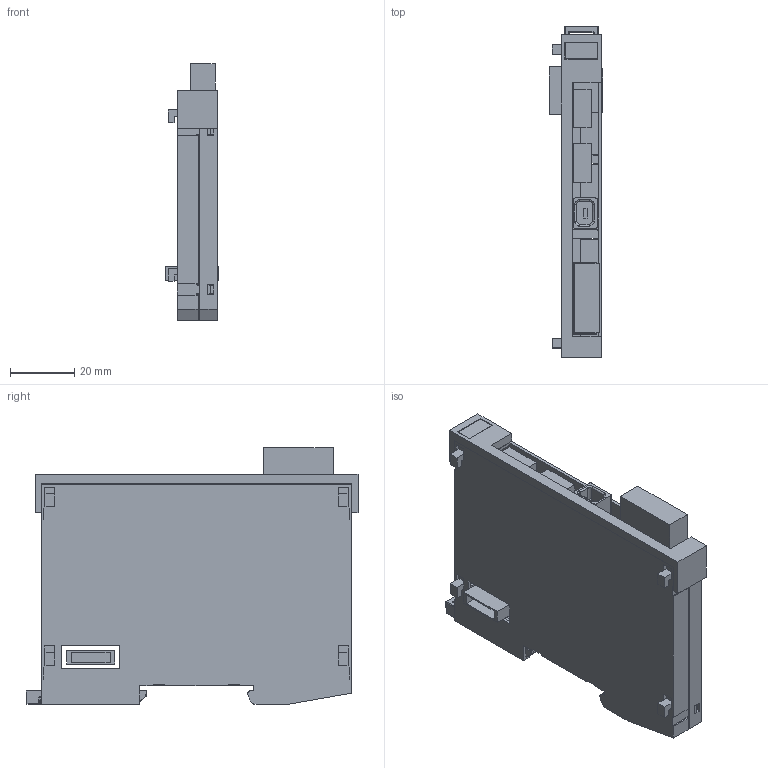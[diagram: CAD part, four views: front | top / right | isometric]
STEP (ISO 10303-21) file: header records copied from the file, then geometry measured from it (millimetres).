
FILE_DESCRIPTION (( 'STEP AP214' ), '1' );
FILE_NAME ('BC031 support.STEP', '2018-06-27T05:54:44', ( 'SIGMATEK GmbH & Co KG' ), ( 'SIGMATEK GmbH & Co KG' ), 'SwSTEP 2.0', 'SolidWorks 2017', '' );
FILE_SCHEMA (( 'AUTOMOTIVE_DESIGN' ));
Length unit declared in the file: millimetre
Products named in the file (13): S-Dias Schale rechts_f Suport; S-Dias Schale links_f Suport; 4110251342_MF 10-5 MC CABUR_1854510000; BC031 support; Dummy_S4B-PH-SH-4-TB; Dummy_4080225387 c-1981080-1-g-3d; Dummy_4110262186 6pol Stecker 1.5-6-st-3.5_1707307; Dummy_4110262114_6pol_1937538; LP_BC031; Dummy_4080225346 Erni Stift; Dummy_4080225345 Erni Buchse; S-Dias Rasthaken 20130313; Schieber_f Suport
Assembly tree (13 placements, depth 3):
  BC031 support
    4110251342_MF 10-5 MC CABUR_1854510000
    S-Dias Schale links_f Suport
    S-Dias Schale rechts_f Suport
    Schieber_f Suport
    S-Dias Rasthaken 20130313
    LP_BC031
      Dummy_4080225345 Erni Buchse
      Dummy_4080225346 Erni Stift
    Dummy_4110262114_6pol_1937538
    Dummy_4110262186 6pol Stecker 1.5-6-st-3.5_1707307
    Dummy_4080225387 c-1981080-1-g-3d
    Dummy_S4B-PH-SH-4-TB  x2
Bounding box: 16.8 x 103.61 x 80.15 mm (x, y, z)
Volume: 26561.9 mm3; surface area: 42469.5 mm2
Topology: 12 solids, 12 shells, 805 faces, 2333 edges, 1542 vertices
Faces by surface type: plane 552, cylinder 140, bspline 55, cone 28, torus 17, sphere 13
Entity records: 31169 total; most frequent: CARTESIAN_POINT 7368, ORIENTED_EDGE 4600, DIRECTION 3617, EDGE_CURVE 2300, LINE 1629, VECTOR 1629, VERTEX_POINT 1526, AXIS2_PLACEMENT_3D 994
